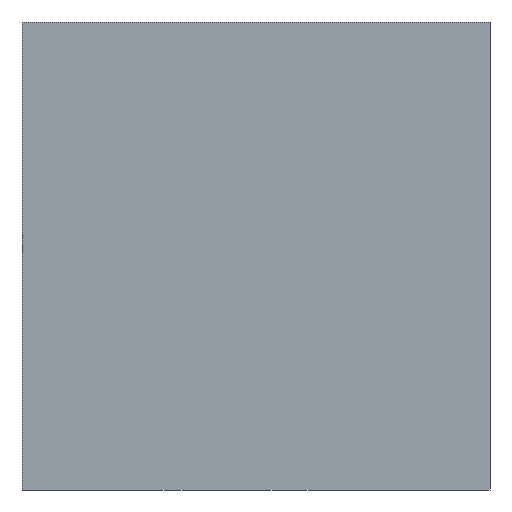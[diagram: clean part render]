
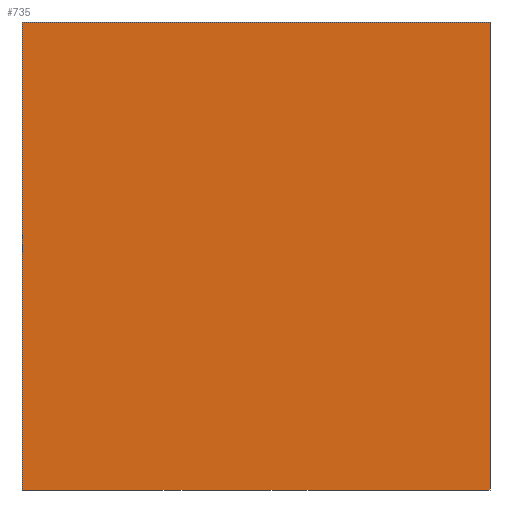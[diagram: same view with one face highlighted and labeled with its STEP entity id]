
A CAD part, left-side view. The second image highlights one B-rep face of the part: STEP entity #735.
In plain terms, the highlighted planar face has unit normal (-1, 0, 0).
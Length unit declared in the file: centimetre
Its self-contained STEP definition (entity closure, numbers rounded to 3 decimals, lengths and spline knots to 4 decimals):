
#9 = DIRECTION ( 'NONE',  ( 0., -1., 0. ) ) ;
#42 = DIRECTION ( 'NONE',  ( 1., 0., 0. ) ) ;
#92 = EDGE_CURVE ( 'NONE', #473, #741, #111, .T. ) ;
#111 = LINE ( 'NONE', #692, #236 ) ;
#158 = CARTESIAN_POINT ( 'NONE',  ( 0., 1000., 0. ) ) ;
#180 = CARTESIAN_POINT ( 'NONE',  ( 0., 0., 0. ) ) ;
#230 = DIRECTION ( 'NONE',  ( 0., 0., -1. ) ) ;
#236 = VECTOR ( 'NONE', #230, 100. ) ;
#281 = ORIENTED_EDGE ( 'NONE', *, *, #364, .T. ) ;
#300 = VECTOR ( 'NONE', #9, 100. ) ;
#305 = CARTESIAN_POINT ( 'NONE',  ( 0., 1000., 1000. ) ) ;
#328 = DIRECTION ( 'NONE',  ( 0., 0., -1. ) ) ;
#331 = ORIENTED_EDGE ( 'NONE', *, *, #664, .F. ) ;
#346 = LINE ( 'NONE', #586, #300 ) ;
#364 = EDGE_CURVE ( 'NONE', #741, #515, #398, .T. ) ;
#394 = ORIENTED_EDGE ( 'NONE', *, *, #528, .F. ) ;
#398 = LINE ( 'NONE', #582, #686 ) ;
#422 = CARTESIAN_POINT ( 'NONE',  ( 0., 0., 1000. ) ) ;
#446 = PLANE ( 'NONE',  #619 ) ;
#473 = VERTEX_POINT ( 'NONE', #305 ) ;
#475 = VECTOR ( 'NONE', #328, 100. ) ;
#509 = DIRECTION ( 'NONE',  ( 0., 0., -1. ) ) ;
#515 = VERTEX_POINT ( 'NONE', #180 ) ;
#528 = EDGE_CURVE ( 'NONE', #473, #614, #346, .T. ) ;
#563 = CARTESIAN_POINT ( 'NONE',  ( 0., 1000., 1000. ) ) ;
#582 = CARTESIAN_POINT ( 'NONE',  ( 0., 1000., 0. ) ) ;
#586 = CARTESIAN_POINT ( 'NONE',  ( 0., 1000., 1000. ) ) ;
#588 = EDGE_LOOP ( 'NONE', ( #281, #331, #394, #606 ) ) ;
#606 = ORIENTED_EDGE ( 'NONE', *, *, #92, .T. ) ;
#613 = CARTESIAN_POINT ( 'NONE',  ( 0., 0., 1000. ) ) ;
#614 = VERTEX_POINT ( 'NONE', #422 ) ;
#618 = LINE ( 'NONE', #613, #475 ) ;
#619 = AXIS2_PLACEMENT_3D ( 'NONE', #563, #42, #509 ) ;
#635 = DIRECTION ( 'NONE',  ( 0., -1., 0. ) ) ;
#664 = EDGE_CURVE ( 'NONE', #614, #515, #618, .T. ) ;
#686 = VECTOR ( 'NONE', #635, 100. ) ;
#692 = CARTESIAN_POINT ( 'NONE',  ( 0., 1000., 1000. ) ) ;
#735 = ADVANCED_FACE ( 'NONE', ( #742 ), #446, .F. ) ;
#741 = VERTEX_POINT ( 'NONE', #158 ) ;
#742 = FACE_OUTER_BOUND ( 'NONE', #588, .T. ) ;
